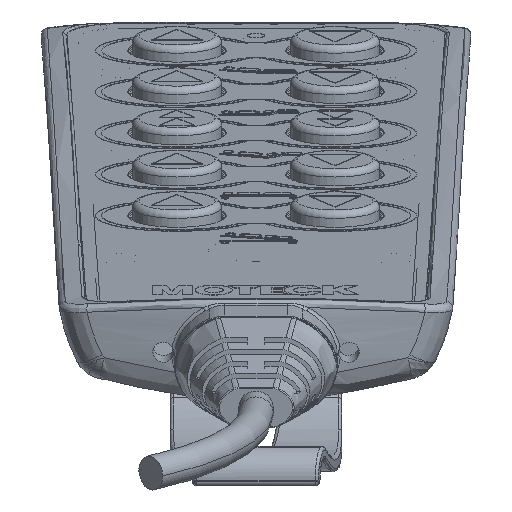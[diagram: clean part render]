
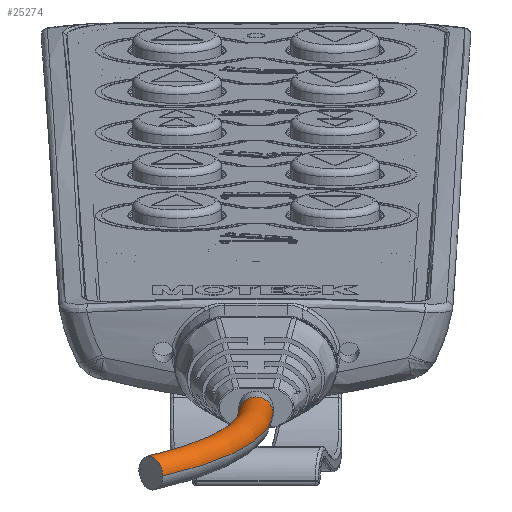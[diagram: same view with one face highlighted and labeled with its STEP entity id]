
A CAD part, top view. The second image highlights one B-rep face of the part: STEP entity #25274.
In plain terms, the highlighted toroidal (fillet/blend) face has major radius 49.95 mm and minor radius 2.5 mm.
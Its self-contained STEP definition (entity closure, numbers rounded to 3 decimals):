
#264 = DIRECTION ( 'NONE',  ( -0.694, 0.174, -0.699 ) ) ;
#1830 = FACE_OUTER_BOUND ( 'NONE', #43933, .T. ) ;
#2489 = CIRCLE ( 'NONE', #17969, 2.5 ) ;
#3697 = VERTEX_POINT ( 'NONE', #46791 ) ;
#4168 = VERTEX_POINT ( 'NONE', #11396 ) ;
#5442 = DIRECTION ( 'NONE',  ( -1., 0., 0. ) ) ;
#6555 = DIRECTION ( 'NONE',  ( 0., -0.97, -0.242 ) ) ;
#7521 = DIRECTION ( 'NONE',  ( 0., 0.97, 0.242 ) ) ;
#9474 = ORIENTED_EDGE ( 'NONE', *, *, #44765, .T. ) ;
#10029 = ORIENTED_EDGE ( 'NONE', *, *, #38975, .T. ) ;
#11396 = CARTESIAN_POINT ( 'NONE',  ( 2.5, 9.832, -40.594 ) ) ;
#15197 = CARTESIAN_POINT ( 'NONE',  ( -49.95, 9.832, -40.594 ) ) ;
#16634 = DIRECTION ( 'NONE',  ( 0., 0.97, 0.242 ) ) ;
#16862 = AXIS2_PLACEMENT_3D ( 'NONE', #34548, #7521, #27414 ) ;
#17969 = AXIS2_PLACEMENT_3D ( 'NONE', #18166, #21001, #5442 ) ;
#18166 = CARTESIAN_POINT ( 'NONE',  ( 0., 9.832, -40.594 ) ) ;
#19665 = CARTESIAN_POINT ( 'NONE',  ( -15.3, 1.129, -5.686 ) ) ;
#19721 = ORIENTED_EDGE ( 'NONE', *, *, #34084, .F. ) ;
#20248 = AXIS2_PLACEMENT_3D ( 'NONE', #32455, #16634, #28123 ) ;
#21001 = DIRECTION ( 'NONE',  ( 0., 0.242, -0.97 ) ) ;
#24601 = ORIENTED_EDGE ( 'NONE', *, *, #29696, .T. ) ;
#25231 = CIRCLE ( 'NONE', #45591, 47.45 ) ;
#25274 = ADVANCED_FACE ( 'NONE', ( #1830 ), #34125, .T. ) ;
#25408 = AXIS2_PLACEMENT_3D ( 'NONE', #19665, #35212, #264 ) ;
#26391 = CARTESIAN_POINT ( 'NONE',  ( -13.566, 0.693, -3.938 ) ) ;
#27414 = DIRECTION ( 'NONE',  ( 0.694, -0.174, 0.699 ) ) ;
#28123 = DIRECTION ( 'NONE',  ( -0.694, 0.174, -0.699 ) ) ;
#29696 = EDGE_CURVE ( 'NONE', #3697, #41228, #25231, .T. ) ;
#30527 = DIRECTION ( 'NONE',  ( 1., 0., 0. ) ) ;
#32455 = CARTESIAN_POINT ( 'NONE',  ( -49.95, 9.832, -40.594 ) ) ;
#33522 = CIRCLE ( 'NONE', #25408, 2.5 ) ;
#34084 = EDGE_CURVE ( 'NONE', #3697, #4168, #2489, .T. ) ;
#34125 = TOROIDAL_SURFACE ( 'NONE', #20248, 49.95, 2.5 ) ;
#34548 = CARTESIAN_POINT ( 'NONE',  ( -49.95, 9.832, -40.594 ) ) ;
#35212 = DIRECTION ( 'NONE',  ( 0.72, 0.168, -0.673 ) ) ;
#38975 = EDGE_CURVE ( 'NONE', #41937, #4168, #50261, .T. ) ;
#41228 = VERTEX_POINT ( 'NONE', #48519 ) ;
#41937 = VERTEX_POINT ( 'NONE', #26391 ) ;
#43933 = EDGE_LOOP ( 'NONE', ( #10029, #19721, #24601, #9474 ) ) ;
#44765 = EDGE_CURVE ( 'NONE', #41228, #41937, #33522, .T. ) ;
#45591 = AXIS2_PLACEMENT_3D ( 'NONE', #15197, #6555, #30527 ) ;
#46791 = CARTESIAN_POINT ( 'NONE',  ( -2.5, 9.832, -40.594 ) ) ;
#48519 = CARTESIAN_POINT ( 'NONE',  ( -17.034, 1.564, -7.433 ) ) ;
#50261 = CIRCLE ( 'NONE', #16862, 52.45 ) ;
